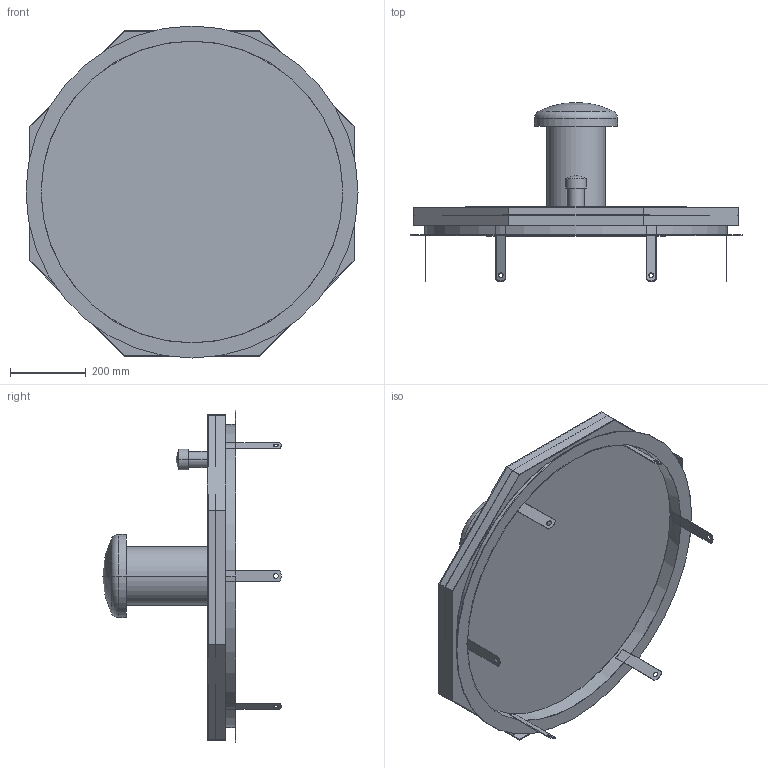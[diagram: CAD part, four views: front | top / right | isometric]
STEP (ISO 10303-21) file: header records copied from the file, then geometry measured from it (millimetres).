
FILE_DESCRIPTION((''),'2;1');
FILE_NAME('017_000107','2018-09-06T',('wj'),('HUBER SE'),'PRO/ENGINEER BY PARAMETRIC TECHNOLOGY CORPORATION, 2017170','PRO/ENGINEER BY PARAMETRIC TECHNOLOGY CORPORATION, 2017170','');
FILE_SCHEMA(('AUTOMOTIVE_DESIGN { 1 0 10303 214 1 1 1 1 }'));
Length unit declared in the file: millimetre
Products named in the file (1): 017_000107
Bounding box: 875 x 471.25 x 875 mm (x, y, z)
Volume: 8602377.8 mm3; surface area: 3331171.4 mm2
Topology: 2 solids, 3 shells, 102 faces, 270 edges, 176 vertices
Faces by surface type: plane 64, cylinder 32, sphere 4, torus 2
Entity records: 3769 total; most frequent: DIRECTION 567, CARTESIAN_POINT 555, ORIENTED_EDGE 532, EDGE_CURVE 266, AXIS2_PLACEMENT_3D 191, VECTOR 182, LINE 182, VERTEX_POINT 176
